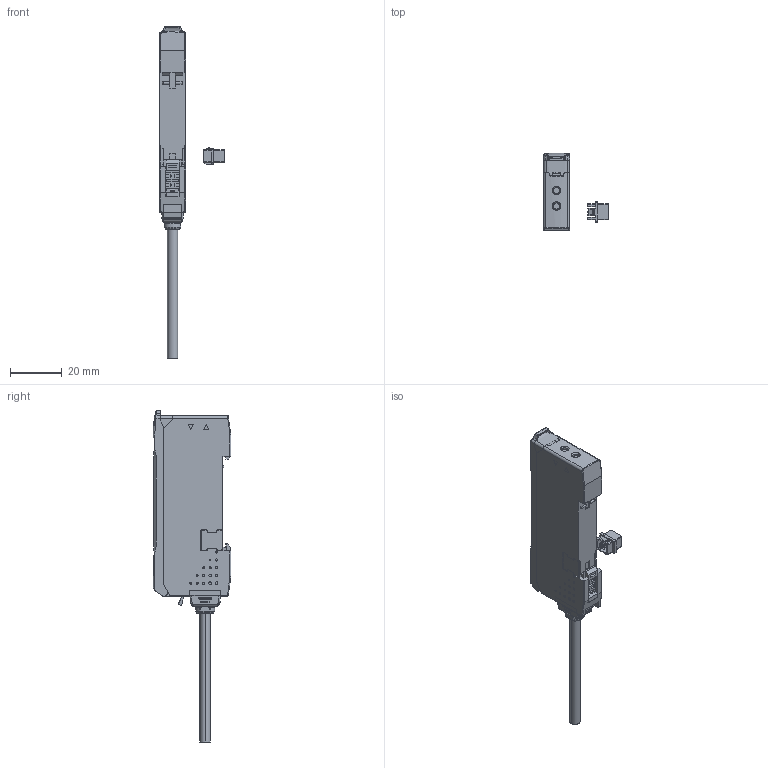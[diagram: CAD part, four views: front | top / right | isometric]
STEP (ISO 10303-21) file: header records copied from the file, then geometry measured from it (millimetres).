
FILE_DESCRIPTION (( 'STEP AP214' ), '1' );
FILE_NAME ('BF5R-S1-P.STEP', '2019-06-18T02:35:29', ( '' ), ( '' ), 'SwSTEP 2.0', 'SolidWorks 2018', '' );
FILE_SCHEMA (( 'AUTOMOTIVE_DESIGN' ));
Length unit declared in the file: millimetre
Products named in the file (1): BF5R-S1-P
Bounding box: 25 x 29.96 x 128.4 mm (x, y, z)
Volume: 19793.9 mm3; surface area: 11309.2 mm2
Topology: 4 solids, 7 shells, 1450 faces, 3716 edges, 2367 vertices
Faces by surface type: plane 935, cylinder 374, bspline 80, torus 34, cone 17, sphere 10
Entity records: 54422 total; most frequent: CARTESIAN_POINT 11427, ORIENTED_EDGE 7402, DIRECTION 7031, EDGE_CURVE 3701, VECTOR 2671, LINE 2671, VERTEX_POINT 2367, AXIS2_PLACEMENT_3D 2180
